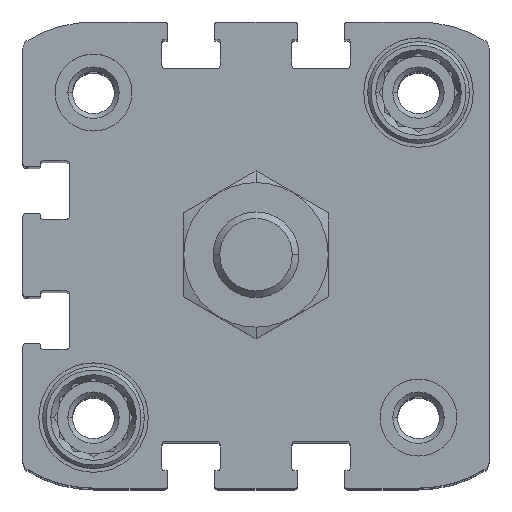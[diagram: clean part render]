
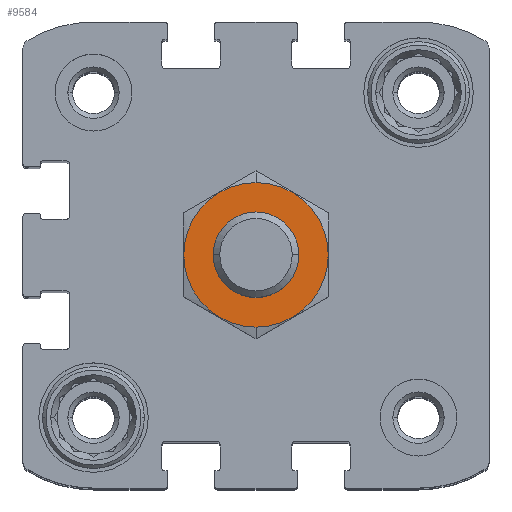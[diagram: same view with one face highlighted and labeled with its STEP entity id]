
A CAD part, top view. The second image highlights one B-rep face of the part: STEP entity #9584.
In plain terms, the highlighted planar face has unit normal (0, 0, 1).
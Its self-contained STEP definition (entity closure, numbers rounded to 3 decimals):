
#253 = VERTEX_POINT ( 'NONE', #2895 ) ;
#632 = AXIS2_PLACEMENT_3D ( 'NONE', #4962, #5223, #3738 ) ;
#721 = ORIENTED_EDGE ( 'NONE', *, *, #5420, .F. ) ;
#1739 = ORIENTED_EDGE ( 'NONE', *, *, #2427, .T. ) ;
#2115 = AXIS2_PLACEMENT_3D ( 'NONE', #10065, #6133, #11906 ) ;
#2427 = EDGE_CURVE ( 'NONE', #253, #14352, #13235, .T. ) ;
#2458 = CIRCLE ( 'NONE', #9741, 5. ) ;
#2895 = CARTESIAN_POINT ( 'NONE',  ( 0., 5., 15.8 ) ) ;
#3738 = DIRECTION ( 'NONE',  ( 0., 1., 0. ) ) ;
#4400 = DIRECTION ( 'NONE',  ( 0., 0., -1. ) ) ;
#4473 = ORIENTED_EDGE ( 'NONE', *, *, #14866, .F. ) ;
#4621 = CARTESIAN_POINT ( 'NONE',  ( 0., -5., 15.8 ) ) ;
#4962 = CARTESIAN_POINT ( 'NONE',  ( 0., 0., 15.8 ) ) ;
#5223 = DIRECTION ( 'NONE',  ( 0., 0., -1. ) ) ;
#5420 = EDGE_CURVE ( 'NONE', #6092, #9825, #12714, .T. ) ;
#5565 = PLANE ( 'NONE',  #6096 ) ;
#5902 = EDGE_LOOP ( 'NONE', ( #14623, #1739 ) ) ;
#6092 = VERTEX_POINT ( 'NONE', #13582 ) ;
#6096 = AXIS2_PLACEMENT_3D ( 'NONE', #10899, #9588, #13626 ) ;
#6133 = DIRECTION ( 'NONE',  ( 0., 0., -1. ) ) ;
#7028 = DIRECTION ( 'NONE',  ( 0., 1., 0. ) ) ;
#8525 = DIRECTION ( 'NONE',  ( 0., 1., 0. ) ) ;
#9135 = CARTESIAN_POINT ( 'NONE',  ( 0., 8.45, 15.8 ) ) ;
#9498 = FACE_OUTER_BOUND ( 'NONE', #12644, .T. ) ;
#9584 = ADVANCED_FACE ( 'NONE', ( #9498, #12223 ), #5565, .F. ) ;
#9588 = DIRECTION ( 'NONE',  ( 0., 0., -1. ) ) ;
#9663 = CIRCLE ( 'NONE', #2115, 8.45 ) ;
#9741 = AXIS2_PLACEMENT_3D ( 'NONE', #16337, #4400, #7028 ) ;
#9825 = VERTEX_POINT ( 'NONE', #9135 ) ;
#10065 = CARTESIAN_POINT ( 'NONE',  ( 0., 0., 15.8 ) ) ;
#10107 = EDGE_CURVE ( 'NONE', #14352, #253, #2458, .T. ) ;
#10899 = CARTESIAN_POINT ( 'NONE',  ( 0., 0., 15.8 ) ) ;
#11906 = DIRECTION ( 'NONE',  ( 0., 1., 0. ) ) ;
#12223 = FACE_BOUND ( 'NONE', #5902, .T. ) ;
#12644 = EDGE_LOOP ( 'NONE', ( #4473, #721 ) ) ;
#12714 = CIRCLE ( 'NONE', #16637, 8.45 ) ;
#12744 = CARTESIAN_POINT ( 'NONE',  ( 0., 0., 15.8 ) ) ;
#13235 = CIRCLE ( 'NONE', #632, 5. ) ;
#13582 = CARTESIAN_POINT ( 'NONE',  ( 0., -8.45, 15.8 ) ) ;
#13626 = DIRECTION ( 'NONE',  ( 0., 1., 0. ) ) ;
#14352 = VERTEX_POINT ( 'NONE', #4621 ) ;
#14623 = ORIENTED_EDGE ( 'NONE', *, *, #10107, .T. ) ;
#14866 = EDGE_CURVE ( 'NONE', #9825, #6092, #9663, .T. ) ;
#16337 = CARTESIAN_POINT ( 'NONE',  ( 0., 0., 15.8 ) ) ;
#16615 = DIRECTION ( 'NONE',  ( 0., 0., -1. ) ) ;
#16637 = AXIS2_PLACEMENT_3D ( 'NONE', #12744, #16615, #8525 ) ;
